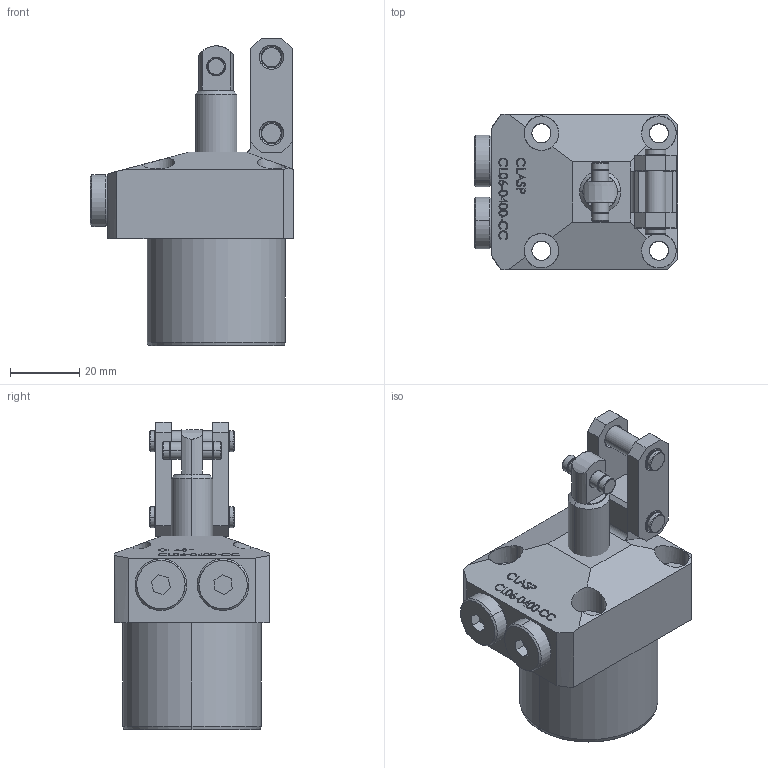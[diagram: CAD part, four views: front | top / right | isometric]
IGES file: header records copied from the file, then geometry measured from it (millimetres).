
Start section: SolidWorks IGES file using analytic representation for surfaces
Global section: file name: D:\karuppas\Clasp\3D model\Link clamp cylinder\CL06-0400-CC\CLO6-0400 cc.IGS; native system: SolidWorks 2017; preprocessor: SolidWorks 2017; author: pc; date: 220705.224914; units: millimetre
Bounding box: 59 x 45 x 89 mm (x, y, z)
Surface area: 24211.9 mm2 (no closed solid volume)
Topology: 0 solids, 0 shells, 416 faces, 6383 edges, 6379 vertices
Faces by surface type: bspline 282, revolution 134
